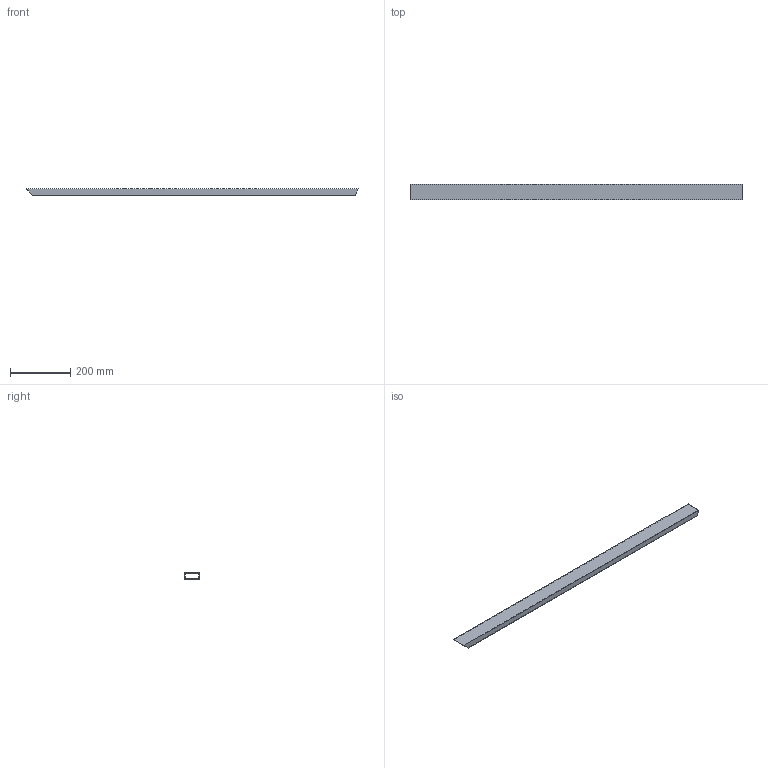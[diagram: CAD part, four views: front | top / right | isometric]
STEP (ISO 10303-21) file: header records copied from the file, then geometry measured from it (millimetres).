
FILE_DESCRIPTION(/* description */ (''),/* implementation_level */ '2;1');
FILE_NAME(/* name */ 'Pos125-Koker 50x20x2 EN 10219-2-S235JRH-1st',/* time_stamp */ '2024-08-06T13:49:48+02:00',/* author */ (''),/* organization */ (''),/* preprocessor_version */ 'ST-DEVELOPER v16.5',/* originating_system */ 'HiCAD 2024 2901.2 Build 361',/* authorisation */ '');
FILE_SCHEMA (('AUTOMOTIVE_DESIGN { 1 0 10303 214 1 1 1 1 }'));
Length unit declared in the file: millimetre
Products named in the file (1): Pos125-Koker 50x20x2 EN 10219-2-S235JRH-1st
Bounding box: 1104.93 x 50 x 20 mm (x, y, z)
Volume: 287802.2 mm3; surface area: 288468 mm2
Topology: 1 solids, 1 shells, 10 faces, 24 edges, 16 vertices
Faces by surface type: plane 10
Entity records: 550 total; most frequent: CARTESIAN_POINT 50, PRESENTATION_STYLE_ASSIGNMENT 49, COLOUR_RGB 49, DRAUGHTING_PRE_DEFINED_CURVE_FONT 48, CURVE_STYLE 48, OVER_RIDING_STYLED_ITEM 48, ORIENTED_EDGE 48, DIRECTION 44
